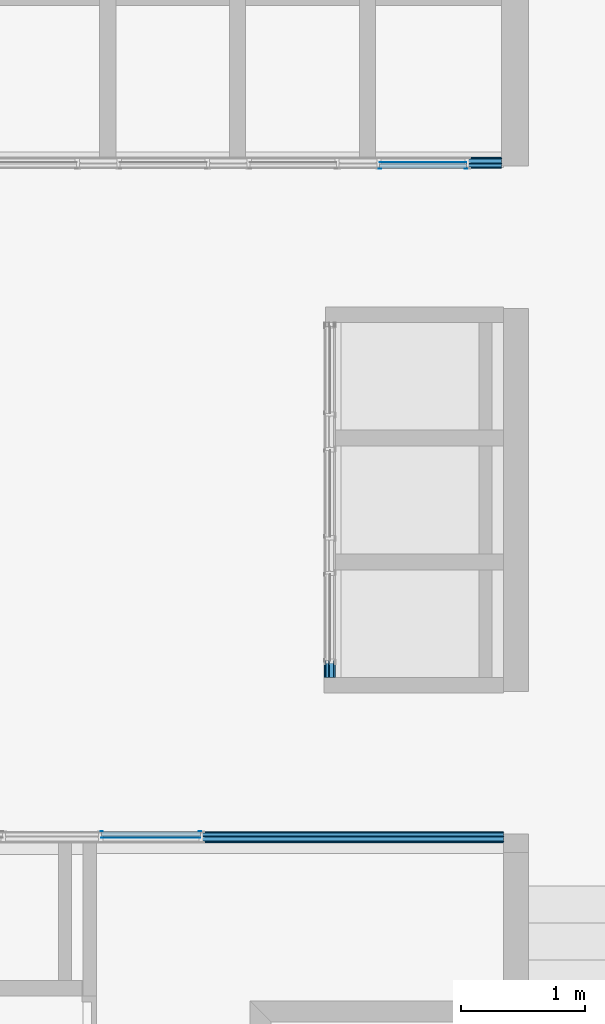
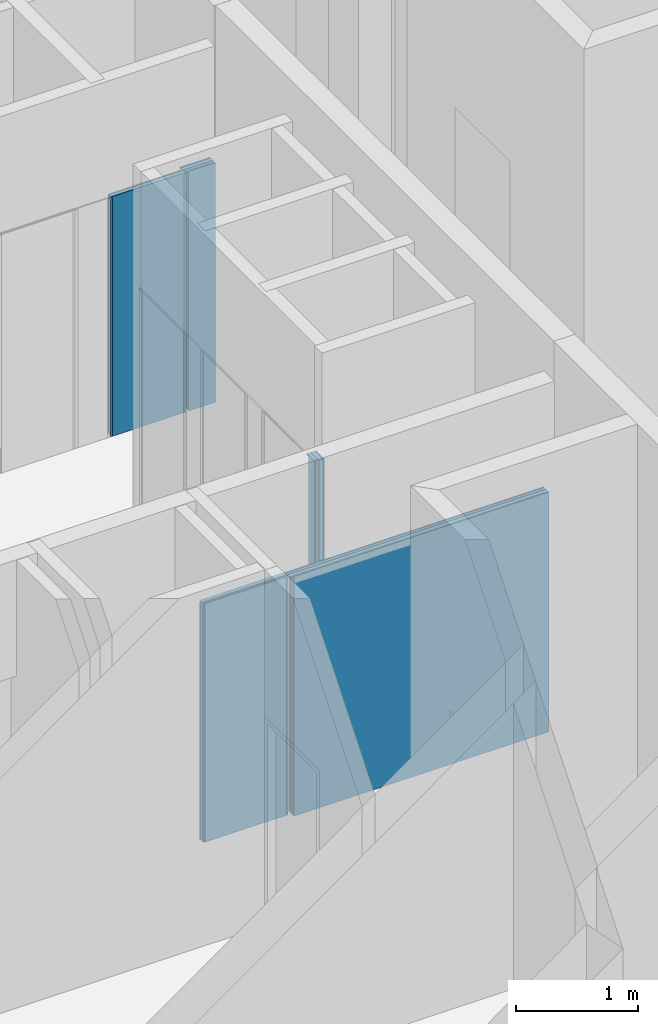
# One storey, part 50 of 89: 16 building element parts, 8 elements without a shape of their own.
"""IFC2X3 building model written with IfcOpenShell, lengths in millimetres."""

import ifcopenshell
import ifcopenshell.guid

model = None  # the IFC model being written
_history = None  # IfcOwnerHistory: only IFC2X3 demands one
_inside = {}  # id of a spatial element -> (the spatial element, [elements in it])
_under = {}  # id of a project, library or spatial element -> (it, [spatial elements below it])
_declared = {}  # id of a project -> (the project, [libraries it declares])
_typed = {}  # id of a type object -> (the type object, [elements of that type])
_made_of = {}  # id of a material, layer set ... -> (it, [elements and type objects made of it])


def new_model(schema):
    """Start an empty IFC model of exactly this schema.

    Asked for "IFC4X3", IfcOpenShell would pick the latest addendum, in which some entities
    have other attributes; the version numbers below select the first issue.
    IFC2X3 requires an IfcOwnerHistory on every rooted entity: one is made here for all.
    """
    global model, _history
    if schema == "IFC4X3":
        model = ifcopenshell.file(schema_version=(4, 3, 0, 0))
    else:
        model = ifcopenshell.file(schema=schema)
    _inside.clear()
    _under.clear()
    _declared.clear()
    _typed.clear()
    _made_of.clear()
    _history = None
    if model.schema == "IFC2X3":
        org = make("IfcOrganization", Name="unknown")
        user = make(
            "IfcPersonAndOrganization",
            ThePerson=make("IfcPerson", FamilyName="unknown"),
            TheOrganization=org,
        )
        app = make(
            "IfcApplication",
            ApplicationDeveloper=org,
            Version="unknown",
            ApplicationFullName="unknown",
            ApplicationIdentifier="unknown",
        )
        _history = make(
            "IfcOwnerHistory",
            OwningUser=user,
            OwningApplication=app,
            ChangeAction="ADDED",
            CreationDate=0,
        )
    return model


def make(cls, **values):
    """One entity of the class cls with the attributes given. An attribute that is None is left unset."""
    return model.create_entity(
        cls, **{name: value for name, value in values.items() if value is not None}
    )


def entity(cls, *values):
    """Any entity or typed value of the class cls, its attributes in the order of the schema. None: left unset."""
    e = model.create_entity(cls)
    for i, value in enumerate(values):
        if value is not None:
            e[i] = value
    return e


def rooted(cls, **values):
    """An entity with a GlobalId (a new one), such as an element, a storey or a relation."""
    return make(cls, GlobalId=ifcopenshell.guid.new(), OwnerHistory=_history, **values)


def si_unit(unit_type, name, prefix=None):
    """IfcSIUnit, for example si_unit("LENGTHUNIT", "METRE", prefix="MILLI")."""
    return make("IfcSIUnit", UnitType=unit_type, Prefix=prefix, Name=name)


def converted_unit(unit_type, name, factor, base, dimensions=None, offset=None):
    """IfcConversionBasedUnit, such as the inch: factor (a typed value) times the base unit."""
    return make(
        "IfcConversionBasedUnit"
        if offset is None
        else "IfcConversionBasedUnitWithOffset",
        ConversionOffset=offset,
        Dimensions=None
        if dimensions is None
        else entity("IfcDimensionalExponents", *dimensions),
        UnitType=unit_type,
        Name=name,
        ConversionFactor=make(
            "IfcMeasureWithUnit", ValueComponent=factor, UnitComponent=base
        ),
    )


def derived_unit(unit_type, elements):
    """IfcDerivedUnit: a product of units, each with its exponent."""
    return make(
        "IfcDerivedUnit",
        Elements=[
            make("IfcDerivedUnitElement", Unit=unit, Exponent=power)
            for unit, power in elements
        ],
        UnitType=unit_type,
    )


def money_unit(currency):
    """IfcMonetaryUnit."""
    return make("IfcMonetaryUnit", Currency=currency)


def assignment(units):
    """IfcUnitAssignment: the units of a project."""
    return None if units is None else make("IfcUnitAssignment", Units=units)


def point(xyz):
    """IfcCartesianPoint."""
    return None if xyz is None else make("IfcCartesianPoint", Coordinates=xyz)


def direction(xyz):
    """IfcDirection."""
    return None if xyz is None else make("IfcDirection", DirectionRatios=xyz)


def frame(location, z_axis=None, x_axis=None):
    """IfcAxis2Placement3D, a coordinate frame: its origin and axes. An axis left out is left unset."""
    return make(
        "IfcAxis2Placement3D",
        Location=point(location),
        Axis=direction(z_axis),
        RefDirection=direction(x_axis),
    )


def origin_with_axes():
    """The frame at (0, 0, 0) with the z axis (0, 0, 1) and the x axis (1, 0, 0) written out."""
    return frame((0.0, 0.0, 0.0), z_axis=(0.0, 0.0, 1.0), x_axis=(1.0, 0.0, 0.0))


def place(relative_to, where):
    """IfcLocalPlacement: puts the frame where relative to a parent placement (None: the world)."""
    return make(
        "IfcLocalPlacement", PlacementRelTo=relative_to, RelativePlacement=where
    )


def context(
    kind, dimensions, precision=None, world=None, true_north=None, identifier=None
):
    """IfcGeometricRepresentationContext, for example the 3D "Model" context."""
    return make(
        "IfcGeometricRepresentationContext",
        ContextIdentifier=identifier,
        ContextType=kind,
        CoordinateSpaceDimension=dimensions,
        Precision=precision,
        WorldCoordinateSystem=world,
        TrueNorth=true_north,
    )


def subcontext(parent, identifier, kind, view, scale=None):
    """IfcGeometricRepresentationSubContext, for example "Body" below "Model"."""
    return make(
        "IfcGeometricRepresentationSubContext",
        ContextIdentifier=identifier,
        ContextType=kind,
        ParentContext=parent,
        TargetScale=scale,
        TargetView=view,
    )


def project(units=None, contexts=None):
    """IfcProject with its units and contexts."""
    return rooted(
        "IfcProject",
        Name="project",
        RepresentationContexts=contexts,
        UnitsInContext=assignment(units),
    )


def spatial(cls, under=None, at=None, **own):
    """A site, building, storey or space (cls), placed at a placement, below another one or the project."""
    s = rooted(cls, ObjectPlacement=at, **own)
    if under is not None:
        _under.setdefault(under.id(), (under, []))[1].append(s)
    return s


def faces_of(points, faces, orient=None, outer=None):
    """IfcFace entities. A face is a list of loops; a loop is a list of indices into points, from 0.

    orient and outer hold one flag for each loop. By default every Orientation is true, the
    first loop of a face is its IfcFaceOuterBound and the others are IfcFaceBound.
    """
    made = []
    for i, loops in enumerate(faces):
        bounds = []
        for j, loop in enumerate(loops):
            is_outer = j == 0 if outer is None else outer[i][j]
            bounds.append(
                make(
                    "IfcFaceOuterBound" if is_outer else "IfcFaceBound",
                    Bound=make("IfcPolyLoop", Polygon=[points[k] for k in loop]),
                    Orientation=True if orient is None else orient[i][j],
                )
            )
        made.append(make("IfcFace", Bounds=bounds))
    return made


def open_shell(faces, orient=None, outer=None):
    """The faces of one IfcOpenShell. surface_model builds it on its shared points."""
    return ("IfcOpenShell", faces, orient, outer)


def faceted_brep(points, faces, orient=None, outer=None, voids=None):
    """IfcFacetedBrep: a solid bounded by flat faces; with voids (closed shells), ...WithVoids."""
    shared = [point(p) for p in points]
    hull = make("IfcClosedShell", CfsFaces=faces_of(shared, faces, orient, outer))
    if voids is None:
        return make("IfcFacetedBrep", Outer=hull)
    return make(
        "IfcFacetedBrepWithVoids",
        Outer=hull,
        Voids=[
            make(cls, CfsFaces=faces_of(shared, fs, o, b)) for cls, fs, o, b in voids
        ],
    )


def surface_model(cls, points, shells):
    """IfcFaceBasedSurfaceModel or IfcShellBasedSurfaceModel (cls): surfaces that need not close."""
    shared = [point(p) for p in points]
    made = [make(c, CfsFaces=faces_of(shared, fs, o, b)) for c, fs, o, b in shells]
    if cls == "IfcFaceBasedSurfaceModel":
        return make(cls, FbsmFaces=made)
    return make(cls, SbsmBoundary=made)


def shape(context_of_items, identifier, shape_type, items):
    """IfcShapeRepresentation: the items that make up one representation, for example the "Body"."""
    return make(
        "IfcShapeRepresentation",
        ContextOfItems=context_of_items,
        RepresentationIdentifier=identifier,
        RepresentationType=shape_type,
        Items=items,
    )


def material(Name=None, Category=None):
    """IfcMaterial."""
    return make("IfcMaterial", Name=Name, Category=Category)


def made_of(thing, what):
    """Note that an element or type object is made of a material, layer set ...; save() writes the relation."""
    if what is not None:
        _made_of.setdefault(what.id(), (what, []))[1].append(thing)
    return thing


def type_object(cls, material=None, **own):
    """A type object (cls), such as IfcWallType, which elements share."""
    return made_of(rooted(cls, **own), material)


def element(
    cls,
    number,
    at=None,
    inside=None,
    cuts=None,
    type_object=None,
    material=None,
    context=None,
    identifier="Body",
    shape_type=None,
    held_by="IfcProductDefinitionShape",
    body=None,
    shapes=None,
    **own,
):
    """One element of the class cls, such as IfcWall. Its Tag is "e" and its number.

    at: its placement. inside: the storey or other place that contains it. cuts: it is an
    opening in that element (IfcRelVoidsElement). A single representation is given by context,
    identifier, shape_type and body (its items); several are given by shapes. held_by: the class
    of the entity that holds the representations. save() writes the other relations.
    """
    e = rooted(cls, Tag="e%d" % number, ObjectPlacement=at, **own)
    if body is not None:
        shapes = [shape(context, identifier, shape_type, body)]
    if shapes is not None:
        e.Representation = make(held_by, Representations=shapes)
    if inside is not None:
        _inside.setdefault(inside.id(), (inside, []))[1].append(e)
    if cuts is not None:
        rooted(
            "IfcRelVoidsElement", RelatingBuildingElement=cuts, RelatedOpeningElement=e
        )
    if type_object is not None:
        _typed.setdefault(type_object.id(), (type_object, []))[1].append(e)
    return made_of(e, material)


def aggregate(whole, parts):
    """IfcRelAggregates: a whole, such as a stair, and the parts it consists of."""
    return rooted("IfcRelAggregates", RelatingObject=whole, RelatedObjects=parts)


def save(model, path):
    """Write the relations noted so far, then the file.

    IfcRelAggregates (storeys below a building ...), IfcRelContainedInSpatialStructure (elements
    in a storey), IfcRelDefinesByType, IfcRelAssociatesMaterial and IfcRelDeclares: one each for
    every whole, place, type object, material and project.
    """
    for whole, parts in _under.values():
        aggregate(whole, parts)
    for where, things in _inside.values():
        rooted(
            "IfcRelContainedInSpatialStructure",
            RelatedElements=things,
            RelatingStructure=where,
        )
    for kind, things in _typed.values():
        rooted("IfcRelDefinesByType", RelatedObjects=things, RelatingType=kind)
    for what, things in _made_of.values():
        rooted("IfcRelAssociatesMaterial", RelatedObjects=things, RelatingMaterial=what)
    for by, libraries in _declared.values():
        rooted("IfcRelDeclares", RelatingContext=by, RelatedDefinitions=libraries)
    model.write(path)


model = new_model("IFC2X3")

# Units and contexts
model_context = context("Model", 3, precision=0.01, world=origin_with_axes(), true_north=direction((0.0, 1.0)))
body_context = subcontext(model_context, "Body", "Model", "MODEL_VIEW")
ifc_project = project(units=[si_unit("LENGTHUNIT", "METRE", prefix="MILLI"), si_unit("AREAUNIT", "SQUARE_METRE"), si_unit("VOLUMEUNIT", "CUBIC_METRE"), converted_unit("PLANEANGLEUNIT", "DEGREE", entity("IfcPlaneAngleMeasure", 0.0174532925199), si_unit("PLANEANGLEUNIT", "RADIAN"), dimensions=[0, 0, 0, 0, 0, 0, 0]), si_unit("SOLIDANGLEUNIT", "STERADIAN"), money_unit("EUR"), converted_unit("TIMEUNIT", "Year", entity("IfcTimeMeasure", 31556926.0), si_unit("TIMEUNIT", "SECOND"), dimensions=[0, 0, 1, 0, 0, 0, 0]), si_unit("MASSUNIT", "GRAM", prefix="KILO"), si_unit("THERMODYNAMICTEMPERATUREUNIT", "DEGREE_CELSIUS"), si_unit("LUMINOUSINTENSITYUNIT", "LUMEN"), si_unit("ENERGYUNIT", "JOULE", prefix="MEGA"), derived_unit("THERMALCONDUCTANCEUNIT", [(si_unit("POWERUNIT", "WATT"), 1), (si_unit("LENGTHUNIT", "METRE"), -1), (si_unit("THERMODYNAMICTEMPERATUREUNIT", "KELVIN"), -1)]), derived_unit("SPECIFICHEATCAPACITYUNIT", [(si_unit("ENERGYUNIT", "JOULE"), 1), (si_unit("MASSUNIT", "GRAM", prefix="KILO"), -1), (si_unit("THERMODYNAMICTEMPERATUREUNIT", "KELVIN"), -1)]), derived_unit("MASSDENSITYUNIT", [(si_unit("MASSUNIT", "GRAM", prefix="KILO"), 1), (si_unit("VOLUMEUNIT", "CUBIC_METRE"), -1)])], contexts=[model_context])

# Site, building, storey
site_placement = place(None, origin_with_axes())
site = spatial("IfcSite", under=ifc_project, at=site_placement, Name="Puškini 31, Narva", CompositionType="ELEMENT")
building_placement = place(site_placement, origin_with_axes())
building = spatial("IfcBuilding", under=site, at=building_placement, Name="Narva Riigigümnaasium", CompositionType="ELEMENT")
storey_placement = place(building_placement, frame((0.0, 0.0, -3300.0), z_axis=(0.0, 0.0, 1.0), x_axis=(1.0, 0.0, 0.0)))
storey = spatial("IfcBuildingStorey", under=building, at=storey_placement, Name="1.korrus -3.3", CompositionType="ELEMENT", Elevation=-3300.0)

# Curtain wall, plate, building element parts
curtain_wall_type = type_object("IfcCurtainWallType", Name="Curtain Wall Type", PredefinedType="NOTDEFINED")
curtain_wall_1_placement = place(storey_placement, frame((33249.9999781, 201010.999711, -1.71671428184e-05), z_axis=(0.0, 0.0, 1.0), x_axis=(1.0, 0.0, 0.0)))
curtain_wall_1 = element("IfcCurtainWall", 1, at=curtain_wall_1_placement, inside=storey, type_object=curtain_wall_type, Name="SUS-02")
plate_type_1 = type_object("IfcPlateType", Name="SA-Siseuksesüsteem-Paneel 136 x 10 x 0", PredefinedType="CURTAIN_PANEL")
plate_1_placement = place(curtain_wall_1_placement, frame((0.0, -418.000000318, 1596.66666842), z_axis=(0.0, 0.0, 1.0), x_axis=(0.0, -1.0, 0.0)))
plate_1 = element("IfcPlate", 2, at=plate_1_placement, type_object=plate_type_1, Name="Panel-SA-Siseuks-075", ObjectType="CURTAIN_PANEL")
aggregate(curtain_wall_1, [plate_1])
ifc_material_1 = material(Name="MDF")
building_element_part_1_placement = place(plate_1_placement, origin_with_axes())
building_element_part_1 = element("IfcBuildingElementPart", 3, at=building_element_part_1_placement, material=ifc_material_1, Name="MDF", context=body_context, shape_type="Brep", body=[
    faceted_brep([(-68.0000001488, 0.0, 803.333334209), (68.0, 0.0, 803.333334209), (68.0, 9.99999999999, 803.333334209), (-68.0000001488, 9.99999999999, 803.333334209), (-68.0000001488, 0.0, 793.333334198), (-34.0000001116, 0.0, 793.333334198), (-34.0000001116, 0.0, -1596.66666842), (68.0, 0.0, -1596.66666842), (68.0, 9.99999999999, -1596.66666842), (-34.0000001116, 9.99999999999, -1596.66666842), (-34.0000001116, 9.99999999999, 793.333334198), (-68.0000001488, 9.99999999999, 793.333334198)], [[[0, 1, 2, 3]], [[0, 4, 5, 6, 7, 1]], [[1, 7, 8, 2]], [[3, 2, 8, 9, 10, 11]], [[4, 0, 3, 11]], [[5, 4, 11, 10]], [[6, 5, 10, 9]], [[7, 6, 9, 8]]]),
    faceted_brep([(-68.0000001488, 84.0, 803.333334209), (68.0, 84.0, 803.333334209), (68.0, 92.0, 803.333334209), (-68.0000001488, 92.0, 803.333334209), (-68.0000001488, 84.0, 793.333334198), (-34.0000001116, 84.0, 793.333334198), (-34.0000001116, 84.0, -1596.66666842), (68.0, 84.0, -1596.66666842), (68.0, 92.0, -1596.66666842), (-34.0000001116, 92.0, -1596.66666842), (-34.0000001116, 92.0, 793.333334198), (-68.0000001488, 92.0, 793.333334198)], [[[0, 1, 2, 3]], [[0, 4, 5, 6, 7, 1]], [[1, 7, 8, 2]], [[3, 2, 8, 9, 10, 11]], [[4, 0, 3, 11]], [[5, 4, 11, 10]], [[6, 5, 10, 9]], [[7, 6, 9, 8]]]),
])
ifc_material_2 = material(Name="Õhkvahe")
building_element_part_2_placement = place(plate_1_placement, origin_with_axes())
building_element_part_2 = element("IfcBuildingElementPart", 4, at=building_element_part_2_placement, material=ifc_material_2, Name="Õhkvahe", context=body_context, shape_type="Brep", body=[
    faceted_brep([(-68.0000001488, 9.99999999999, 803.333334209), (68.0, 9.99999999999, 803.333334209), (68.0, 12.0, 803.333334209), (-68.0000001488, 12.0, 803.333334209), (-68.0000001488, 9.99999999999, 793.333334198), (-34.0000001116, 9.99999999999, 793.333334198), (-34.0000001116, 9.99999999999, -1596.66666842), (68.0, 9.99999999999, -1596.66666842), (68.0, 12.0, -1596.66666842), (-34.0000001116, 12.0, -1596.66666842), (-34.0000001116, 12.0, 793.333334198), (-68.0000001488, 12.0, 793.333334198)], [[[0, 1, 2, 3]], [[0, 4, 5, 6, 7, 1]], [[1, 7, 8, 2]], [[3, 2, 8, 9, 10, 11]], [[4, 0, 3, 11]], [[5, 4, 11, 10]], [[6, 5, 10, 9]], [[7, 6, 9, 8]]]),
    faceted_brep([(-68.0000001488, 38.0, 803.333334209), (68.0, 38.0, 803.333334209), (68.0, 42.0, 803.333334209), (-68.0000001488, 42.0, 803.333334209), (-68.0000001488, 38.0, 793.333334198), (-34.0000001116, 38.0, 793.333334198), (-34.0000001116, 38.0, -1596.66666842), (68.0, 38.0, -1596.66666842), (68.0, 42.0, -1596.66666842), (-34.0000001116, 42.0, -1596.66666842), (-34.0000001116, 42.0, 793.333334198), (-68.0000001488, 42.0, 793.333334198)], [[[0, 1, 2, 3]], [[0, 4, 5, 6, 7, 1]], [[1, 7, 8, 2]], [[3, 2, 8, 9, 10, 11]], [[4, 0, 3, 11]], [[5, 4, 11, 10]], [[6, 5, 10, 9]], [[7, 6, 9, 8]]]),
    faceted_brep([(-68.0000001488, 79.0, 803.333334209), (68.0, 79.0, 803.333334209), (68.0, 84.0, 803.333334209), (-68.0000001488, 84.0, 803.333334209), (-68.0000001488, 79.0, 793.333334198), (-34.0000001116, 79.0, 793.333334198), (-34.0000001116, 79.0, -1596.66666842), (68.0, 79.0, -1596.66666842), (68.0, 84.0, -1596.66666842), (-34.0000001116, 84.0, -1596.66666842), (-34.0000001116, 84.0, 793.333334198), (-68.0000001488, 84.0, 793.333334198)], [[[0, 1, 2, 3]], [[0, 4, 5, 6, 7, 1]], [[1, 7, 8, 2]], [[3, 2, 8, 9, 10, 11]], [[4, 0, 3, 11]], [[5, 4, 11, 10]], [[6, 5, 10, 9]], [[7, 6, 9, 8]]]),
])
ifc_material_3 = material(Name="Kipsplaat")
building_element_part_3_placement = place(plate_1_placement, origin_with_axes())
building_element_part_3 = element("IfcBuildingElementPart", 5, at=building_element_part_3_placement, material=ifc_material_3, Name="Kipsplaat", context=body_context, shape_type="Brep", body=[
    faceted_brep([(-68.0000001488, 12.0, 803.333334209), (68.0, 12.0, 803.333334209), (68.0, 25.0, 803.333334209), (-68.0000001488, 25.0, 803.333334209), (-68.0000001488, 12.0, 793.333334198), (-34.0000001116, 12.0, 793.333334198), (-34.0000001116, 12.0, -1596.66666842), (68.0, 12.0, -1596.66666842), (68.0, 25.0, -1596.66666842), (-34.0000001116, 25.0, -1596.66666842), (-34.0000001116, 25.0, 793.333334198), (-68.0000001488, 25.0, 793.333334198)], [[[0, 1, 2, 3]], [[0, 4, 5, 6, 7, 1]], [[1, 7, 8, 2]], [[3, 2, 8, 9, 10, 11]], [[4, 0, 3, 11]], [[5, 4, 11, 10]], [[6, 5, 10, 9]], [[7, 6, 9, 8]]]),
    faceted_brep([(-68.0000001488, 25.0, 803.333334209), (68.0, 25.0, 803.333334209), (68.0, 38.0, 803.333334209), (-68.0000001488, 38.0, 803.333334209), (-68.0000001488, 25.0, 793.333334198), (-34.0000001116, 25.0, 793.333334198), (-34.0000001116, 25.0, -1596.66666842), (68.0, 25.0, -1596.66666842), (68.0, 38.0, -1596.66666842), (-34.0000001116, 38.0, -1596.66666842), (-34.0000001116, 38.0, 793.333334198), (-68.0000001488, 38.0, 793.333334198)], [[[0, 1, 2, 3]], [[0, 4, 5, 6, 7, 1]], [[1, 7, 8, 2]], [[3, 2, 8, 9, 10, 11]], [[4, 0, 3, 11]], [[5, 4, 11, 10]], [[6, 5, 10, 9]], [[7, 6, 9, 8]]]),
])
ifc_material_4 = material(Name="Klaasvill")
building_element_part_4_placement = place(plate_1_placement, origin_with_axes())
building_element_part_4 = element("IfcBuildingElementPart", 6, at=building_element_part_4_placement, material=ifc_material_4, Name="Klaasvill", context=body_context, shape_type="Brep", body=[
    faceted_brep([(-68.0000001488, 42.0, 803.333334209), (68.0, 42.0, 803.333334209), (68.0, 79.0, 803.333334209), (-68.0000001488, 79.0, 803.333334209), (-68.0000001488, 42.0, 793.333334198), (-34.0000001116, 42.0, 793.333334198), (-34.0000001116, 42.0, -1596.66666842), (68.0, 42.0, -1596.66666842), (68.0, 79.0, -1596.66666842), (-34.0000001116, 79.0, -1596.66666842), (-34.0000001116, 79.0, 793.333334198), (-68.0000001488, 79.0, 793.333334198)], [[[0, 1, 2, 3]], [[0, 4, 5, 6, 7, 1]], [[1, 7, 8, 2]], [[3, 2, 8, 9, 10, 11]], [[4, 0, 3, 11]], [[5, 4, 11, 10]], [[6, 5, 10, 9]], [[7, 6, 9, 8]]]),
])
aggregate(plate_1, [building_element_part_1, building_element_part_2, building_element_part_3, building_element_part_4])

# Curtain wall, door, building element parts, plate
curtain_wall_2_placement = place(storey_placement, frame((28798.9958137, 199279.999716, 0.0), z_axis=(0.0, 0.0, 1.0), x_axis=(1.0, 0.0, 0.0)))
curtain_wall_2 = element("IfcCurtainWall", 7, at=curtain_wall_2_placement, inside=storey, type_object=curtain_wall_type, Name="SUS-01")
door_style = type_object("IfcDoorStyle", Name="SU-Sile 7 x 2390 x 0", ConstructionType="NOTDEFINED", OperationType="NOTDEFINED", ParameterTakesPrecedence=False, Sizeable=False)
door_1_placement = place(curtain_wall_2_placement, frame((3050.00418599, 0.0, 1194.9999686), z_axis=(0.0, 0.0, 1.0), x_axis=(-1.0, 0.0, 0.0)))
door_1 = element("IfcDoor", 8, at=door_1_placement, type_object=door_style, Name="G-SU-017", ObjectType="DOOR")
ifc_material_5 = material(Name="Alumiiniumprofiil (RAL 7021)")
building_element_part_5_placement = place(door_1_placement, origin_with_axes())
building_element_part_5 = element("IfcBuildingElementPart", 9, at=building_element_part_5_placement, material=ifc_material_5, Name="Alumiiniumprofiil (RAL 7021)", context=body_context, shape_type="SurfaceModel", body=[
    surface_model("IfcShellBasedSurfaceModel", [(-399.999989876, 50.0, -1194.9999686), (-387.999989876, 50.0, -1194.9999686), (-387.999989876, 50.0, 1194.9999686), (-399.999989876, 50.0, 1206.9999686)], [open_shell([[[0, 1, 2, 3]]])]),
    surface_model("IfcShellBasedSurfaceModel", [(-387.999989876, 50.0, 1194.9999686), (387.999998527, 50.0, 1194.9999686), (399.999998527, 50.0, 1206.9999686), (-399.999989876, 50.0, 1206.9999686)], [open_shell([[[0, 1, 2, 3]]])]),
    surface_model("IfcShellBasedSurfaceModel", [(387.999998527, 50.0, 1194.9999686), (387.999998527, 50.0, -1194.9999686), (399.999998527, 50.0, -1194.9999686), (399.999998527, 50.0, 1206.9999686)], [open_shell([[[0, 1, 2, 3]]])]),
    surface_model("IfcShellBasedSurfaceModel", [(-406.999993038, 0.0, -1194.9999686), (-387.999989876, 0.0, -1194.9999686), (-387.999989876, 0.0, 1194.9999686), (-406.999993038, 0.0, 1194.9999686)], [open_shell([[[0, 1, 2, 3]]])]),
    surface_model("IfcShellBasedSurfaceModel", [(407.000000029, 0.0, 1194.9999686), (387.999998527, 0.0, 1194.9999686), (387.999998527, 0.0, -1194.9999686), (407.000000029, 0.0, -1194.9999686)], [open_shell([[[0, 1, 2, 3]]])]),
])
building_element_part_6_placement = place(door_1_placement, origin_with_axes())
building_element_part_6 = element("IfcBuildingElementPart", 10, at=building_element_part_6_placement, material=ifc_material_1, Name="MDF", context=body_context, shape_type="Brep", body=[
    faceted_brep([(399.999998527, 38.1818181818, -1194.9999686), (399.999998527, 0.0, -1194.9999686), (-399.999989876, 0.0, -1194.9999686), (-399.999989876, 38.1818181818, -1194.9999686), (399.999998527, 38.1818181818, 1206.9999686), (399.999998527, 0.0, 1206.9999686), (-399.999989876, 0.0, 1206.9999686), (-399.999989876, 38.1818181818, 1206.9999686)], [[[0, 1, 2, 3]], [[4, 5, 1, 0]], [[1, 5, 6, 2]], [[3, 2, 6, 7]], [[0, 3, 7, 4]], [[7, 6, 5, 4]]]),
    faceted_brep([(386.285713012, 50.0, -1194.9999686), (386.285713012, 38.1818181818, -1194.9999686), (-386.28570436, 38.1818181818, -1194.9999686), (-386.28570436, 50.0, -1194.9999686), (386.285713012, 50.0, 1193.27425468), (386.285713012, 38.1818181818, 1193.27425468), (-386.28570436, 38.1818181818, 1193.27425468), (-386.28570436, 50.0, 1193.27425468)], [[[0, 1, 2, 3]], [[4, 5, 1, 0]], [[1, 5, 6, 2]], [[3, 2, 6, 7]], [[0, 3, 7, 4]], [[7, 6, 5, 4]]]),
])
aggregate(door_1, [building_element_part_5, building_element_part_6])
plate_type_2 = type_object("IfcPlateType", Name="SA-Siseuksesüsteem-Paneel 2451 x 10 x 0", PredefinedType="CURTAIN_PANEL")
plate_2_placement = place(curtain_wall_2_placement, frame((4675.50418599, 0.0, 1596.6666248), z_axis=(0.0, 0.0, 1.0), x_axis=(-1.0, 0.0, 0.0)))
plate_2 = element("IfcPlate", 11, at=plate_2_placement, type_object=plate_type_2, Name="Panel-SA-Siseuks-088", ObjectType="CURTAIN_PANEL")
aggregate(curtain_wall_2, [door_1, plate_2])
building_element_part_7_placement = place(plate_2_placement, origin_with_axes())
building_element_part_7 = element("IfcBuildingElementPart", 12, at=building_element_part_7_placement, material=ifc_material_1, Name="MDF", context=body_context, shape_type="Brep", body=[
    faceted_brep([(-1225.5, 0.0, 803.333329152), (1225.5, 0.0, 803.333329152), (1225.5, 9.99999999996, 803.333329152), (-1225.5, 9.99999999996, 803.333329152), (-1225.5, 0.0, -1596.6666248), (1191.49999365, 0.0, -1596.6666248), (1191.49999365, 0.0, 793.333318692), (1225.5, 0.0, 793.333318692), (1225.5, 9.99999999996, 793.333318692), (1191.49999365, 9.99999999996, 793.333318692), (1191.49999365, 9.99999999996, -1596.6666248), (-1225.5, 9.99999999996, -1596.6666248)], [[[0, 1, 2, 3]], [[0, 4, 5, 6, 7, 1]], [[1, 7, 8, 2]], [[3, 2, 8, 9, 10, 11]], [[4, 0, 3, 11]], [[5, 4, 11, 10]], [[6, 5, 10, 9]], [[7, 6, 9, 8]]]),
    faceted_brep([(-1225.5, 84.0, 803.333329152), (1225.5, 84.0, 803.333329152), (1225.5, 92.0, 803.333329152), (-1225.5, 92.0, 803.333329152), (-1225.5, 84.0, -1596.6666248), (1191.49999365, 84.0, -1596.6666248), (1191.49999365, 84.0, 793.333318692), (1225.5, 84.0, 793.333318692), (1225.5, 92.0, 793.333318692), (1191.49999365, 92.0, 793.333318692), (1191.49999365, 92.0, -1596.6666248), (-1225.5, 92.0, -1596.6666248)], [[[0, 1, 2, 3]], [[0, 4, 5, 6, 7, 1]], [[1, 7, 8, 2]], [[3, 2, 8, 9, 10, 11]], [[4, 0, 3, 11]], [[5, 4, 11, 10]], [[6, 5, 10, 9]], [[7, 6, 9, 8]]]),
])
building_element_part_8_placement = place(plate_2_placement, origin_with_axes())
building_element_part_8 = element("IfcBuildingElementPart", 13, at=building_element_part_8_placement, material=ifc_material_2, Name="Õhkvahe", context=body_context, shape_type="Brep", body=[
    faceted_brep([(-1225.5, 9.99999999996, 803.333329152), (1225.5, 9.99999999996, 803.333329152), (1225.5, 12.0, 803.333329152), (-1225.5, 12.0, 803.333329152), (-1225.5, 9.99999999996, -1596.6666248), (1191.49999365, 9.99999999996, -1596.6666248), (1191.49999365, 9.99999999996, 793.333318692), (1225.5, 9.99999999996, 793.333318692), (1225.5, 12.0, 793.333318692), (1191.49999365, 12.0, 793.333318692), (1191.49999365, 12.0, -1596.6666248), (-1225.5, 12.0, -1596.6666248)], [[[0, 1, 2, 3]], [[0, 4, 5, 6, 7, 1]], [[1, 7, 8, 2]], [[3, 2, 8, 9, 10, 11]], [[4, 0, 3, 11]], [[5, 4, 11, 10]], [[6, 5, 10, 9]], [[7, 6, 9, 8]]]),
    faceted_brep([(-1225.5, 38.0, 803.333329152), (1225.5, 38.0, 803.333329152), (1225.5, 42.0, 803.333329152), (-1225.5, 42.0, 803.333329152), (-1225.5, 38.0, -1596.6666248), (1191.49999365, 38.0, -1596.6666248), (1191.49999365, 38.0, 793.333318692), (1225.5, 38.0, 793.333318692), (1225.5, 42.0, 793.333318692), (1191.49999365, 42.0, 793.333318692), (1191.49999365, 42.0, -1596.6666248), (-1225.5, 42.0, -1596.6666248)], [[[0, 1, 2, 3]], [[0, 4, 5, 6, 7, 1]], [[1, 7, 8, 2]], [[3, 2, 8, 9, 10, 11]], [[4, 0, 3, 11]], [[5, 4, 11, 10]], [[6, 5, 10, 9]], [[7, 6, 9, 8]]]),
    faceted_brep([(-1225.5, 79.0, 803.333329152), (1225.5, 79.0, 803.333329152), (1225.5, 84.0, 803.333329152), (-1225.5, 84.0, 803.333329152), (-1225.5, 79.0, -1596.6666248), (1191.49999365, 79.0, -1596.6666248), (1191.49999365, 79.0, 793.333318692), (1225.5, 79.0, 793.333318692), (1225.5, 84.0, 793.333318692), (1191.49999365, 84.0, 793.333318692), (1191.49999365, 84.0, -1596.6666248), (-1225.5, 84.0, -1596.6666248)], [[[0, 1, 2, 3]], [[0, 4, 5, 6, 7, 1]], [[1, 7, 8, 2]], [[3, 2, 8, 9, 10, 11]], [[4, 0, 3, 11]], [[5, 4, 11, 10]], [[6, 5, 10, 9]], [[7, 6, 9, 8]]]),
])
building_element_part_9_placement = place(plate_2_placement, origin_with_axes())
building_element_part_9 = element("IfcBuildingElementPart", 14, at=building_element_part_9_placement, material=ifc_material_3, Name="Kipsplaat", context=body_context, shape_type="Brep", body=[
    faceted_brep([(-1225.5, 12.0, 803.333329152), (1225.5, 12.0, 803.333329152), (1225.5, 25.0, 803.333329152), (-1225.5, 25.0, 803.333329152), (-1225.5, 12.0, -1596.6666248), (1191.49999365, 12.0, -1596.6666248), (1191.49999365, 12.0, 793.333318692), (1225.5, 12.0, 793.333318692), (1225.5, 25.0, 793.333318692), (1191.49999365, 25.0, 793.333318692), (1191.49999365, 25.0, -1596.6666248), (-1225.5, 25.0, -1596.6666248)], [[[0, 1, 2, 3]], [[0, 4, 5, 6, 7, 1]], [[1, 7, 8, 2]], [[3, 2, 8, 9, 10, 11]], [[4, 0, 3, 11]], [[5, 4, 11, 10]], [[6, 5, 10, 9]], [[7, 6, 9, 8]]]),
    faceted_brep([(-1225.5, 25.0, 803.333329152), (1225.5, 25.0, 803.333329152), (1225.5, 38.0, 803.333329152), (-1225.5, 38.0, 803.333329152), (-1225.5, 25.0, -1596.6666248), (1191.49999365, 25.0, -1596.6666248), (1191.49999365, 25.0, 793.333318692), (1225.5, 25.0, 793.333318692), (1225.5, 38.0, 793.333318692), (1191.49999365, 38.0, 793.333318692), (1191.49999365, 38.0, -1596.6666248), (-1225.5, 38.0, -1596.6666248)], [[[0, 1, 2, 3]], [[0, 4, 5, 6, 7, 1]], [[1, 7, 8, 2]], [[3, 2, 8, 9, 10, 11]], [[4, 0, 3, 11]], [[5, 4, 11, 10]], [[6, 5, 10, 9]], [[7, 6, 9, 8]]]),
])
building_element_part_10_placement = place(plate_2_placement, origin_with_axes())
building_element_part_10 = element("IfcBuildingElementPart", 15, at=building_element_part_10_placement, material=ifc_material_4, Name="Klaasvill", context=body_context, shape_type="Brep", body=[
    faceted_brep([(-1225.5, 42.0, 803.333329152), (1225.5, 42.0, 803.333329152), (1225.5, 79.0, 803.333329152), (-1225.5, 79.0, 803.333329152), (-1225.5, 42.0, -1596.6666248), (1191.49999365, 42.0, -1596.6666248), (1191.49999365, 42.0, 793.333318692), (1225.5, 42.0, 793.333318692), (1225.5, 79.0, 793.333318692), (1191.49999365, 79.0, 793.333318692), (1191.49999365, 79.0, -1596.6666248), (-1225.5, 79.0, -1596.6666248)], [[[0, 1, 2, 3]], [[0, 4, 5, 6, 7, 1]], [[1, 7, 8, 2]], [[3, 2, 8, 9, 10, 11]], [[4, 0, 3, 11]], [[5, 4, 11, 10]], [[6, 5, 10, 9]], [[7, 6, 9, 8]]]),
])
aggregate(plate_2, [building_element_part_7, building_element_part_8, building_element_part_9, building_element_part_10])

# Curtain wall, plate, building element parts, door
curtain_wall_3_placement = place(storey_placement, frame((34541.9999996, 204639.999743, 1.06559201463e-05), z_axis=(0.0, 0.0, 1.0), x_axis=(1.0, 0.0, 0.0)))
curtain_wall_3 = element("IfcCurtainWall", 16, at=curtain_wall_3_placement, inside=storey, type_object=curtain_wall_type, Name="SUS-03")
plate_type_3 = type_object("IfcPlateType", Name="SA-Siseuksesüsteem-Paneel 286 x 10 x 0", PredefinedType="CURTAIN_PANEL")
plate_3_placement = place(curtain_wall_3_placement, frame((0.0, 0.0, 1596.66663924), z_axis=(0.0, 0.0, 1.0), x_axis=(1.0, 0.0, 0.0)))
plate_3 = element("IfcPlate", 17, at=plate_3_placement, type_object=plate_type_3, Name="Panel-SA-Siseuks-055", ObjectType="CURTAIN_PANEL")
building_element_part_11_placement = place(plate_3_placement, origin_with_axes())
building_element_part_11 = element("IfcBuildingElementPart", 18, at=building_element_part_11_placement, material=ifc_material_1, Name="MDF", context=body_context, shape_type="Brep", body=[
    faceted_brep([(-142.999997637, 0.0, 803.333330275), (143.0, 0.0, 803.333330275), (143.0, 9.99999999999, 803.333330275), (-142.999997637, 9.99999999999, 803.333330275), (-142.999997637, 0.0, 793.333330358), (-108.999997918, 0.0, 793.333330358), (-108.999997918, 0.0, -1596.66664989), (143.0, 0.0, -1596.66664989), (143.0, 9.99999999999, -1596.66664989), (-108.999997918, 9.99999999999, -1596.66664989), (-108.999997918, 9.99999999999, 793.333330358), (-142.999997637, 9.99999999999, 793.333330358)], [[[0, 1, 2, 3]], [[0, 4, 5, 6, 7, 1]], [[1, 7, 8, 2]], [[3, 2, 8, 9, 10, 11]], [[4, 0, 3, 11]], [[5, 4, 11, 10]], [[6, 5, 10, 9]], [[7, 6, 9, 8]]]),
    faceted_brep([(-142.999997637, 84.0, 803.333330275), (143.0, 84.0, 803.333330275), (143.0, 92.0, 803.333330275), (-142.999997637, 92.0, 803.333330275), (-142.999997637, 84.0, 793.333330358), (-108.999997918, 84.0, 793.333330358), (-108.999997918, 84.0, -1596.66664989), (143.0, 84.0, -1596.66664989), (143.0, 92.0, -1596.66664989), (-108.999997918, 92.0, -1596.66664989), (-108.999997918, 92.0, 793.333330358), (-142.999997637, 92.0, 793.333330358)], [[[0, 1, 2, 3]], [[0, 4, 5, 6, 7, 1]], [[1, 7, 8, 2]], [[3, 2, 8, 9, 10, 11]], [[4, 0, 3, 11]], [[5, 4, 11, 10]], [[6, 5, 10, 9]], [[7, 6, 9, 8]]]),
])
building_element_part_12_placement = place(plate_3_placement, origin_with_axes())
building_element_part_12 = element("IfcBuildingElementPart", 19, at=building_element_part_12_placement, material=ifc_material_2, Name="Õhkvahe", context=body_context, shape_type="Brep", body=[
    faceted_brep([(-142.999997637, 9.99999999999, 803.333330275), (143.0, 9.99999999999, 803.333330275), (143.0, 12.0, 803.333330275), (-142.999997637, 12.0, 803.333330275), (-142.999997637, 9.99999999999, 793.333330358), (-108.999997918, 9.99999999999, 793.333330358), (-108.999997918, 9.99999999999, -1596.66664989), (143.0, 9.99999999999, -1596.66664989), (143.0, 12.0, -1596.66664989), (-108.999997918, 12.0, -1596.66664989), (-108.999997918, 12.0, 793.333330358), (-142.999997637, 12.0, 793.333330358)], [[[0, 1, 2, 3]], [[0, 4, 5, 6, 7, 1]], [[1, 7, 8, 2]], [[3, 2, 8, 9, 10, 11]], [[4, 0, 3, 11]], [[5, 4, 11, 10]], [[6, 5, 10, 9]], [[7, 6, 9, 8]]]),
    faceted_brep([(-142.999997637, 38.0, 803.333330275), (143.0, 38.0, 803.333330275), (143.0, 42.0, 803.333330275), (-142.999997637, 42.0, 803.333330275), (-142.999997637, 38.0, 793.333330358), (-108.999997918, 38.0, 793.333330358), (-108.999997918, 38.0, -1596.66664989), (143.0, 38.0, -1596.66664989), (143.0, 42.0, -1596.66664989), (-108.999997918, 42.0, -1596.66664989), (-108.999997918, 42.0, 793.333330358), (-142.999997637, 42.0, 793.333330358)], [[[0, 1, 2, 3]], [[0, 4, 5, 6, 7, 1]], [[1, 7, 8, 2]], [[3, 2, 8, 9, 10, 11]], [[4, 0, 3, 11]], [[5, 4, 11, 10]], [[6, 5, 10, 9]], [[7, 6, 9, 8]]]),
    faceted_brep([(-142.999997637, 79.0, 803.333330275), (143.0, 79.0, 803.333330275), (143.0, 84.0, 803.333330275), (-142.999997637, 84.0, 803.333330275), (-142.999997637, 79.0, 793.333330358), (-108.999997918, 79.0, 793.333330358), (-108.999997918, 79.0, -1596.66664989), (143.0, 79.0, -1596.66664989), (143.0, 84.0, -1596.66664989), (-108.999997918, 84.0, -1596.66664989), (-108.999997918, 84.0, 793.333330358), (-142.999997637, 84.0, 793.333330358)], [[[0, 1, 2, 3]], [[0, 4, 5, 6, 7, 1]], [[1, 7, 8, 2]], [[3, 2, 8, 9, 10, 11]], [[4, 0, 3, 11]], [[5, 4, 11, 10]], [[6, 5, 10, 9]], [[7, 6, 9, 8]]]),
])
building_element_part_13_placement = place(plate_3_placement, origin_with_axes())
building_element_part_13 = element("IfcBuildingElementPart", 20, at=building_element_part_13_placement, material=ifc_material_3, Name="Kipsplaat", context=body_context, shape_type="Brep", body=[
    faceted_brep([(-142.999997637, 12.0, 803.333330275), (143.0, 12.0, 803.333330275), (143.0, 25.0, 803.333330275), (-142.999997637, 25.0, 803.333330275), (-142.999997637, 12.0, 793.333330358), (-108.999997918, 12.0, 793.333330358), (-108.999997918, 12.0, -1596.66664989), (143.0, 12.0, -1596.66664989), (143.0, 25.0, -1596.66664989), (-108.999997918, 25.0, -1596.66664989), (-108.999997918, 25.0, 793.333330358), (-142.999997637, 25.0, 793.333330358)], [[[0, 1, 2, 3]], [[0, 4, 5, 6, 7, 1]], [[1, 7, 8, 2]], [[3, 2, 8, 9, 10, 11]], [[4, 0, 3, 11]], [[5, 4, 11, 10]], [[6, 5, 10, 9]], [[7, 6, 9, 8]]]),
    faceted_brep([(-142.999997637, 25.0, 803.333330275), (143.0, 25.0, 803.333330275), (143.0, 38.0, 803.333330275), (-142.999997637, 38.0, 803.333330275), (-142.999997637, 25.0, 793.333330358), (-108.999997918, 25.0, 793.333330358), (-108.999997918, 25.0, -1596.66664989), (143.0, 25.0, -1596.66664989), (143.0, 38.0, -1596.66664989), (-108.999997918, 38.0, -1596.66664989), (-108.999997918, 38.0, 793.333330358), (-142.999997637, 38.0, 793.333330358)], [[[0, 1, 2, 3]], [[0, 4, 5, 6, 7, 1]], [[1, 7, 8, 2]], [[3, 2, 8, 9, 10, 11]], [[4, 0, 3, 11]], [[5, 4, 11, 10]], [[6, 5, 10, 9]], [[7, 6, 9, 8]]]),
])
building_element_part_14_placement = place(plate_3_placement, origin_with_axes())
building_element_part_14 = element("IfcBuildingElementPart", 21, at=building_element_part_14_placement, material=ifc_material_4, Name="Klaasvill", context=body_context, shape_type="Brep", body=[
    faceted_brep([(-142.999997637, 42.0, 803.333330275), (143.0, 42.0, 803.333330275), (143.0, 79.0, 803.333330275), (-142.999997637, 79.0, 803.333330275), (-142.999997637, 42.0, 793.333330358), (-108.999997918, 42.0, 793.333330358), (-108.999997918, 42.0, -1596.66664989), (143.0, 42.0, -1596.66664989), (143.0, 79.0, -1596.66664989), (-108.999997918, 79.0, -1596.66664989), (-108.999997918, 79.0, 793.333330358), (-142.999997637, 79.0, 793.333330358)], [[[0, 1, 2, 3]], [[0, 4, 5, 6, 7, 1]], [[1, 7, 8, 2]], [[3, 2, 8, 9, 10, 11]], [[4, 0, 3, 11]], [[5, 4, 11, 10]], [[6, 5, 10, 9]], [[7, 6, 9, 8]]]),
])
aggregate(plate_3, [building_element_part_11, building_element_part_12, building_element_part_13, building_element_part_14])
door_2_placement = place(curtain_wall_3_placement, frame((-493.087583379, 0.0, 1194.9999741), z_axis=(0.0, 0.0, 1.0), x_axis=(1.0, 0.0, 0.0)))
door_2 = element("IfcDoor", 22, at=door_2_placement, type_object=door_style, Name="G-SU-025", ObjectType="DOOR")
aggregate(curtain_wall_3, [door_2, plate_3])
building_element_part_15_placement = place(door_2_placement, origin_with_axes())
building_element_part_15 = element("IfcBuildingElementPart", 23, at=building_element_part_15_placement, material=ifc_material_5, Name="Alumiiniumprofiil (RAL 7021)", context=body_context, shape_type="SurfaceModel", body=[
    surface_model("IfcShellBasedSurfaceModel", [(-350.08758785, 50.0, -1194.99998476), (-338.08758785, 50.0, -1194.99998476), (-338.08758785, 50.0, 1194.99998476), (-350.08758785, 50.0, 1206.99998476)], [open_shell([[[0, 1, 2, 3]]])]),
    surface_model("IfcShellBasedSurfaceModel", [(-338.08758785, 50.0, 1194.99998476), (338.087581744, 50.0, 1194.99998476), (350.087581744, 50.0, 1206.99998476), (-350.08758785, 50.0, 1206.99998476)], [open_shell([[[0, 1, 2, 3]]])]),
    surface_model("IfcShellBasedSurfaceModel", [(338.087581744, 50.0, 1194.99998476), (338.087581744, 50.0, -1194.99998476), (350.087581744, 50.0, -1194.99998476), (350.087581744, 50.0, 1206.99998476)], [open_shell([[[0, 1, 2, 3]]])]),
    surface_model("IfcShellBasedSurfaceModel", [(-357.087591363, 0.0, -1194.99998476), (-338.08758785, 0.0, -1194.99998476), (-338.08758785, 0.0, 1194.99998476), (-357.087591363, 0.0, 1194.99998476)], [open_shell([[[0, 1, 2, 3]]])]),
    surface_model("IfcShellBasedSurfaceModel", [(357.087583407, 0.0, 1194.99998476), (338.087581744, 0.0, 1194.99998476), (338.087581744, 0.0, -1194.99998476), (357.087583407, 0.0, -1194.99998476)], [open_shell([[[0, 1, 2, 3]]])]),
])
building_element_part_16_placement = place(door_2_placement, origin_with_axes())
building_element_part_16 = element("IfcBuildingElementPart", 24, at=building_element_part_16_placement, material=ifc_material_1, Name="MDF", context=body_context, shape_type="Brep", body=[
    faceted_brep([(350.087581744, 38.1818181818, -1194.99998476), (350.087581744, 0.0, -1194.99998476), (-350.08758785, 0.0, -1194.99998476), (-350.08758785, 38.1818181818, -1194.99998476), (350.087581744, 38.1818181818, 1206.99998476), (350.087581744, 0.0, 1206.99998476), (-350.08758785, 0.0, 1206.99998476), (-350.08758785, 38.1818181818, 1206.99998476)], [[[0, 1, 2, 3]], [[4, 5, 1, 0]], [[1, 5, 6, 2]], [[3, 2, 6, 7]], [[0, 3, 7, 4]], [[7, 6, 5, 4]]]),
    faceted_brep([(338.084578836, 50.0, -1194.99998476), (338.084578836, 38.1818181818, -1194.99998476), (-338.084584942, 38.1818181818, -1194.99998476), (-338.084584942, 50.0, -1194.99998476), (338.084578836, 50.0, 1193.27427065), (338.084578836, 38.1818181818, 1193.27427065), (-338.084584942, 38.1818181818, 1193.27427065), (-338.084584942, 50.0, 1193.27427065)], [[[0, 1, 2, 3]], [[4, 5, 1, 0]], [[1, 5, 6, 2]], [[3, 2, 6, 7]], [[0, 3, 7, 4]], [[7, 6, 5, 4]]]),
])
aggregate(door_2, [building_element_part_15, building_element_part_16])

save(model, "model.ifc")
